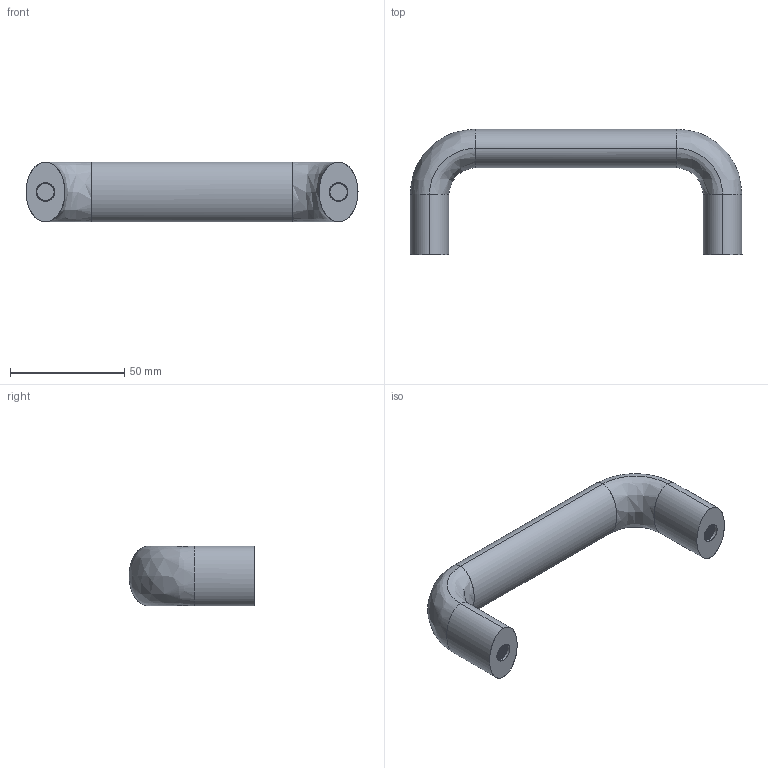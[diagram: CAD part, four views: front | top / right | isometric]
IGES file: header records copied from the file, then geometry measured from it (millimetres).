
Start section: SolidWorks IGES file using analytic representation for surfaces
Global section: file name: C:\Documents and Settings\Deathkiller\桌面\3D IGES\U型把手\MS-740\26\p=128.IGS; native system: SolidWorks 2006 by SolidWorks Corporation; preprocessor: SolidWorks 2006 by SolidWorks Corporation; author: Deathkiller; date: 080624.172443; units: millimetre
Bounding box: 145 x 54.98 x 26 mm (x, y, z)
Surface area: 15330.8 mm2 (no closed solid volume)
Topology: 0 solids, 0 shells, 70 faces, 1626 edges, 1626 vertices
Faces by surface type: revolution 48, bspline 22
